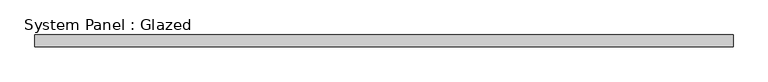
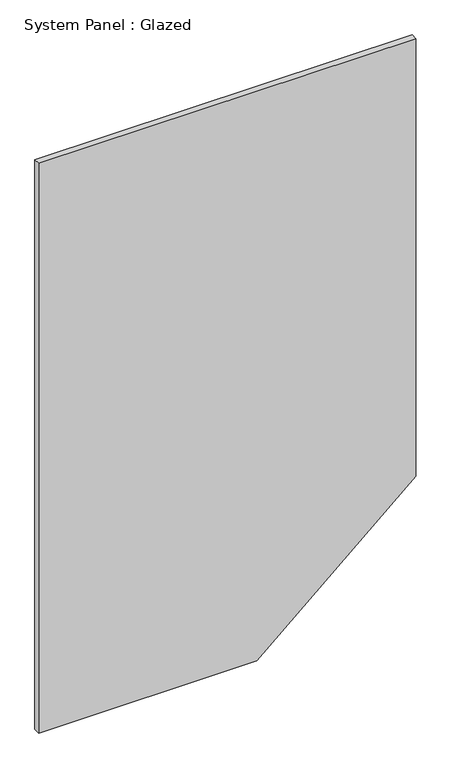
"""IFC4 building model written with IfcOpenShell, lengths in millimetres: plate geometry, System Panel : Glazed."""

from ifc_helpers import new_model, si_unit, frame, origin, place, context, project, spatial, polyline, outline, extrude, source, transform, mapped, element, save


def system_panel_glazed_1f5b2183(model_context):
    return source(origin(), model_context, "Body", "SweptSolid", [
        extrude(outline(polyline([(0.0, -735.8695652), (0.0, 116.0609537), (543.4217548, 735.8695652), (2350.0, 735.8695652), (2350.0, -735.8695652), (0.0, -735.8695652)])), frame((0.0, 24.5, 0.0), z_axis=(0.0, 1.0, 0.0), x_axis=(0.0, 0.0, 1.0)), (0.0, 0.0, 1.0), 25.0),
    ])


if __name__ == "__main__":
    model = new_model("IFC4")
    model_context = context("Model", 3, world=origin())
    ifc_project = project(units=[si_unit("LENGTHUNIT", "METRE", prefix="MILLI")], contexts=[model_context])
    site = spatial("IfcSite", under=ifc_project)
    building = spatial("IfcBuilding", under=site)
    placement = place(None, origin())
    system_panel_glazed_shape = system_panel_glazed_1f5b2183(model_context)
    element("IfcPlate", 1, ObjectType="System Panel : Glazed", at=placement, inside=building, context=model_context, shape_type="MappedRepresentation", body=[
        mapped(system_panel_glazed_shape, transform((0.0, 0.0, 0.0), x_axis=(1.0, 0.0, 0.0), y_axis=(0.0, 1.0, 0.0), z_axis=(0.0, 0.0, 1.0))),
    ])
    save(model, "model.ifc")
